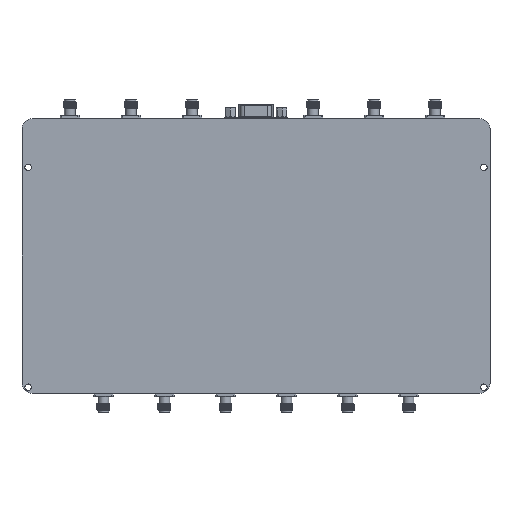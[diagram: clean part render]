
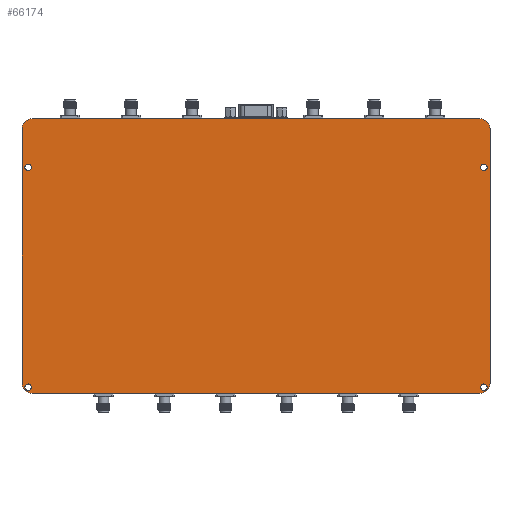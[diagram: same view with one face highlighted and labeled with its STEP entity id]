
A CAD part, front view. The second image highlights one B-rep face of the part: STEP entity #66174.
In plain terms, the highlighted planar face has unit normal (0, -1, 0).
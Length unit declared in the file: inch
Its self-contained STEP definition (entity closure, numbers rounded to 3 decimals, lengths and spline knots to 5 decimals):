
#380 = VERTEX_POINT ( 'NONE', #68884 ) ;
#676 = VERTEX_POINT ( 'NONE', #59881 ) ;
#806 = EDGE_LOOP ( 'NONE', ( #63045 ) ) ;
#2668 = ORIENTED_EDGE ( 'NONE', *, *, #81862, .T. ) ;
#3044 = CARTESIAN_POINT ( 'NONE',  ( -4.94023, -0.83949, -2.71827 ) ) ;
#3120 = EDGE_LOOP ( 'NONE', ( #57897 ) ) ;
#3752 = DIRECTION ( 'NONE',  ( 0., 1., 0. ) ) ;
#5020 = EDGE_CURVE ( 'NONE', #86141, #86141, #18848, .T. ) ;
#6789 = VERTEX_POINT ( 'NONE', #17379 ) ;
#7800 = CARTESIAN_POINT ( 'NONE',  ( -4.86149, -0.83949, 2.21874 ) ) ;
#9736 = VECTOR ( 'NONE', #15898, 39.37008 ) ;
#11557 = CIRCLE ( 'NONE', #53100, 0.19685 ) ;
#11702 = VERTEX_POINT ( 'NONE', #29710 ) ;
#11872 = DIRECTION ( 'NONE',  ( 0., 0., -1. ) ) ;
#13680 = FACE_BOUND ( 'NONE', #806, .T. ) ;
#14719 = EDGE_CURVE ( 'NONE', #676, #380, #33090, .T. ) ;
#14774 = DIRECTION ( 'NONE',  ( 0., 1., 0. ) ) ;
#15898 = DIRECTION ( 'NONE',  ( 0., 0., -1. ) ) ;
#15952 = CARTESIAN_POINT ( 'NONE',  ( 3.87867, -0.83949, 1.5337 ) ) ;
#16270 = CIRCLE ( 'NONE', #90524, 0.06299 ) ;
#16778 = CARTESIAN_POINT ( 'NONE',  ( 3.79993, -0.83949, -2.89937 ) ) ;
#17379 = CARTESIAN_POINT ( 'NONE',  ( 3.79993, -0.83949, 2.41559 ) ) ;
#17752 = DIRECTION ( 'NONE',  ( 0., 0., -1. ) ) ;
#17778 = VERTEX_POINT ( 'NONE', #39221 ) ;
#18848 = CIRCLE ( 'NONE', #39692, 0.06299 ) ;
#20666 = FACE_OUTER_BOUND ( 'NONE', #74813, .T. ) ;
#21683 = CARTESIAN_POINT ( 'NONE',  ( 3.87867, -0.83949, -2.78126 ) ) ;
#21719 = EDGE_CURVE ( 'NONE', #380, #6789, #30484, .T. ) ;
#23118 = CARTESIAN_POINT ( 'NONE',  ( -4.86149, -0.83949, -2.89937 ) ) ;
#23454 = DIRECTION ( 'NONE',  ( 0., 0., -1. ) ) ;
#23890 = LINE ( 'NONE', #87611, #91600 ) ;
#24611 = ORIENTED_EDGE ( 'NONE', *, *, #21719, .F. ) ;
#25607 = EDGE_CURVE ( 'NONE', #56861, #49456, #36627, .T. ) ;
#27422 = VECTOR ( 'NONE', #72347, 39.37008 ) ;
#29033 = ORIENTED_EDGE ( 'NONE', *, *, #50003, .F. ) ;
#29710 = CARTESIAN_POINT ( 'NONE',  ( 3.99678, -0.83949, -2.70252 ) ) ;
#30484 = LINE ( 'NONE', #43992, #27422 ) ;
#31125 = CARTESIAN_POINT ( 'NONE',  ( -4.94023, -0.83949, 1.47071 ) ) ;
#32163 = DIRECTION ( 'NONE',  ( 0., 0., 1. ) ) ;
#33090 = CIRCLE ( 'NONE', #36093, 0.19685 ) ;
#33293 = FACE_BOUND ( 'NONE', #3120, .T. ) ;
#34239 = DIRECTION ( 'NONE',  ( 0., -1., 0. ) ) ;
#35514 = VERTEX_POINT ( 'NONE', #16778 ) ;
#36093 = AXIS2_PLACEMENT_3D ( 'NONE', #7800, #14774, #48760 ) ;
#36147 = CARTESIAN_POINT ( 'NONE',  ( -5.05834, -0.83949, -2.70252 ) ) ;
#36627 = CIRCLE ( 'NONE', #58799, 0.19685 ) ;
#36821 = CARTESIAN_POINT ( 'NONE',  ( 3.87867, -0.83949, 1.47071 ) ) ;
#39221 = CARTESIAN_POINT ( 'NONE',  ( -4.94023, -0.83949, 1.5337 ) ) ;
#39692 = AXIS2_PLACEMENT_3D ( 'NONE', #21683, #63563, #70079 ) ;
#42980 = VERTEX_POINT ( 'NONE', #15952 ) ;
#43466 = DIRECTION ( 'NONE',  ( 0., 0., 1. ) ) ;
#43918 = AXIS2_PLACEMENT_3D ( 'NONE', #58337, #50902, #23454 ) ;
#43933 = LINE ( 'NONE', #51329, #49311 ) ;
#43992 = CARTESIAN_POINT ( 'NONE',  ( 3.79993, -0.83949, 2.41559 ) ) ;
#44783 = EDGE_CURVE ( 'NONE', #11702, #35514, #66175, .T. ) ;
#46429 = DIRECTION ( 'NONE',  ( 0., 1., 0. ) ) ;
#47118 = EDGE_CURVE ( 'NONE', #6789, #91536, #11557, .T. ) ;
#47218 = VERTEX_POINT ( 'NONE', #3044 ) ;
#48760 = DIRECTION ( 'NONE',  ( 0., 0., 1. ) ) ;
#49007 = CARTESIAN_POINT ( 'NONE',  ( -4.86149, -0.83949, -2.70252 ) ) ;
#49311 = VECTOR ( 'NONE', #43466, 39.37008 ) ;
#49456 = VERTEX_POINT ( 'NONE', #36147 ) ;
#50003 = EDGE_CURVE ( 'NONE', #49456, #676, #43933, .T. ) ;
#50140 = ORIENTED_EDGE ( 'NONE', *, *, #67439, .F. ) ;
#50205 = ORIENTED_EDGE ( 'NONE', *, *, #47118, .F. ) ;
#50902 = DIRECTION ( 'NONE',  ( 0., 1., 0. ) ) ;
#51080 = AXIS2_PLACEMENT_3D ( 'NONE', #62089, #34239, #11872 ) ;
#51329 = CARTESIAN_POINT ( 'NONE',  ( -5.05834, -0.83949, 2.21874 ) ) ;
#52056 = DIRECTION ( 'NONE',  ( 0., 0., 1. ) ) ;
#52180 = EDGE_CURVE ( 'NONE', #42980, #42980, #76135, .T. ) ;
#53100 = AXIS2_PLACEMENT_3D ( 'NONE', #87071, #81456, #17752 ) ;
#53208 = ORIENTED_EDGE ( 'NONE', *, *, #25607, .F. ) ;
#54397 = CIRCLE ( 'NONE', #66310, 0.06299 ) ;
#54935 = EDGE_CURVE ( 'NONE', #17778, #17778, #54397, .T. ) ;
#56861 = VERTEX_POINT ( 'NONE', #23118 ) ;
#57897 = ORIENTED_EDGE ( 'NONE', *, *, #5020, .T. ) ;
#58337 = CARTESIAN_POINT ( 'NONE',  ( 3.79993, -0.83949, -2.70252 ) ) ;
#58742 = ORIENTED_EDGE ( 'NONE', *, *, #54935, .T. ) ;
#58799 = AXIS2_PLACEMENT_3D ( 'NONE', #49007, #61533, #76378 ) ;
#59469 = DIRECTION ( 'NONE',  ( 0., 0., 1. ) ) ;
#59872 = ORIENTED_EDGE ( 'NONE', *, *, #78831, .F. ) ;
#59881 = CARTESIAN_POINT ( 'NONE',  ( -5.05834, -0.83949, 2.21874 ) ) ;
#61297 = EDGE_LOOP ( 'NONE', ( #58742 ) ) ;
#61533 = DIRECTION ( 'NONE',  ( 0., 1., 0. ) ) ;
#62089 = CARTESIAN_POINT ( 'NONE',  ( 3.79993, -0.83949, -2.70252 ) ) ;
#63045 = ORIENTED_EDGE ( 'NONE', *, *, #52180, .T. ) ;
#63563 = DIRECTION ( 'NONE',  ( 0., 1., 0. ) ) ;
#64410 = ORIENTED_EDGE ( 'NONE', *, *, #44783, .F. ) ;
#65111 = DIRECTION ( 'NONE',  ( 0., 1., 0. ) ) ;
#65639 = CARTESIAN_POINT ( 'NONE',  ( 3.99678, -0.83949, -2.70252 ) ) ;
#66174 = ADVANCED_FACE ( 'NONE', ( #33293, #13680, #68596, #90016, #20666 ), #76452, .T. ) ;
#66175 = CIRCLE ( 'NONE', #43918, 0.19685 ) ;
#66310 = AXIS2_PLACEMENT_3D ( 'NONE', #31125, #46429, #59469 ) ;
#67439 = EDGE_CURVE ( 'NONE', #91536, #11702, #79603, .T. ) ;
#67824 = CARTESIAN_POINT ( 'NONE',  ( 3.99678, -0.83949, 2.21874 ) ) ;
#68042 = DIRECTION ( 'NONE',  ( -1., 0., 0. ) ) ;
#68596 = FACE_BOUND ( 'NONE', #61297, .T. ) ;
#68884 = CARTESIAN_POINT ( 'NONE',  ( -4.86149, -0.83949, 2.41559 ) ) ;
#69747 = EDGE_LOOP ( 'NONE', ( #2668 ) ) ;
#70079 = DIRECTION ( 'NONE',  ( 0., 0., 1. ) ) ;
#72347 = DIRECTION ( 'NONE',  ( 1., 0., 0. ) ) ;
#74813 = EDGE_LOOP ( 'NONE', ( #64410, #50140, #50205, #24611, #76601, #29033, #53208, #59872 ) ) ;
#76135 = CIRCLE ( 'NONE', #91068, 0.06299 ) ;
#76378 = DIRECTION ( 'NONE',  ( 0., 0., -1. ) ) ;
#76452 = PLANE ( 'NONE',  #51080 ) ;
#76601 = ORIENTED_EDGE ( 'NONE', *, *, #14719, .F. ) ;
#77288 = CARTESIAN_POINT ( 'NONE',  ( 3.87867, -0.83949, -2.71827 ) ) ;
#78831 = EDGE_CURVE ( 'NONE', #35514, #56861, #23890, .T. ) ;
#79603 = LINE ( 'NONE', #65639, #9736 ) ;
#81456 = DIRECTION ( 'NONE',  ( 0., 1., 0. ) ) ;
#81862 = EDGE_CURVE ( 'NONE', #47218, #47218, #16270, .T. ) ;
#86141 = VERTEX_POINT ( 'NONE', #77288 ) ;
#87071 = CARTESIAN_POINT ( 'NONE',  ( 3.79993, -0.83949, 2.21874 ) ) ;
#87611 = CARTESIAN_POINT ( 'NONE',  ( -4.86149, -0.83949, -2.89937 ) ) ;
#88890 = CARTESIAN_POINT ( 'NONE',  ( -4.94023, -0.83949, -2.78126 ) ) ;
#90016 = FACE_BOUND ( 'NONE', #69747, .T. ) ;
#90524 = AXIS2_PLACEMENT_3D ( 'NONE', #88890, #3752, #32163 ) ;
#91068 = AXIS2_PLACEMENT_3D ( 'NONE', #36821, #65111, #52056 ) ;
#91536 = VERTEX_POINT ( 'NONE', #67824 ) ;
#91600 = VECTOR ( 'NONE', #68042, 39.37008 ) ;
